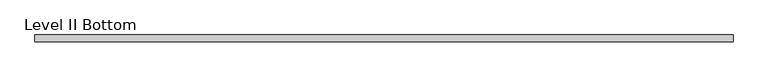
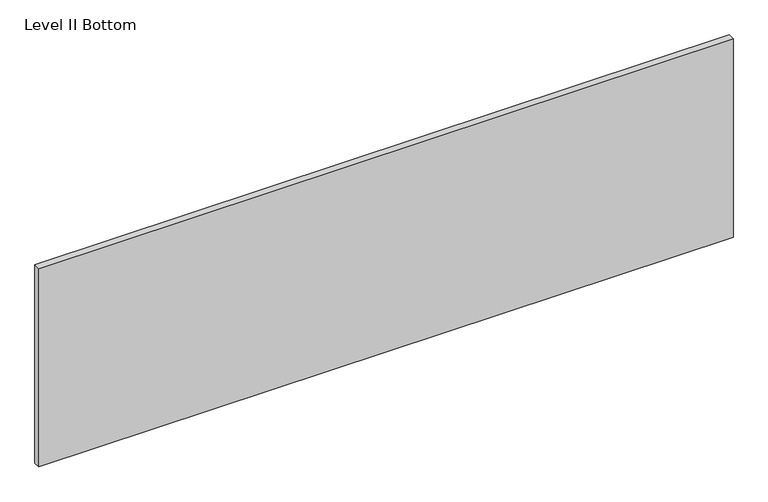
"""IFC4 building model written with IfcOpenShell, lengths in millimetres: proxy geometry, Panel-Fascia-Teknion-Altos-Landscape : Level II Bottom."""

from ifc_helpers import new_model, si_unit, frame, origin, place, context, project, spatial, polyline, outline, extrude, source, transform, mapped, element, save


def level_ii_bottom_46093f10(model_context):
    return source(origin(), model_context, "Body", "SweptSolid", [
        extrude(outline(polyline([(998.8407125, -9.525), (-998.8407125, -9.525), (-998.8407125, 9.525), (998.8407125, 9.525), (998.8407125, -9.525)])), frame((0.0, 0.0, 3.175), z_axis=(0.0, 0.0, 1.0), x_axis=(1.0, 0.0, 0.0)), (0.0, 0.0, 1.0), 603.25),
    ])


if __name__ == "__main__":
    model = new_model("IFC4")
    model_context = context("Model", 3, world=origin())
    ifc_project = project(units=[si_unit("LENGTHUNIT", "METRE", prefix="MILLI")], contexts=[model_context])
    site = spatial("IfcSite", under=ifc_project)
    building = spatial("IfcBuilding", under=site)
    placement = place(None, origin())
    level_ii_bottom_shape = level_ii_bottom_46093f10(model_context)
    element("IfcBuildingElementProxy", 1, Name="Panel-Fascia-Teknion-Altos-Landscape : Level II Bottom", ObjectType="Panel-Fascia-Teknion-Altos-Landscape : Level II Bottom", at=placement, inside=building, context=model_context, shape_type="MappedRepresentation", body=[
        mapped(level_ii_bottom_shape, transform((0.0, 0.0, 0.0), x_axis=(1.0, 0.0, 0.0), y_axis=(0.0, 1.0, 0.0), z_axis=(0.0, 0.0, 1.0))),
    ])
    save(model, "model.ifc")
